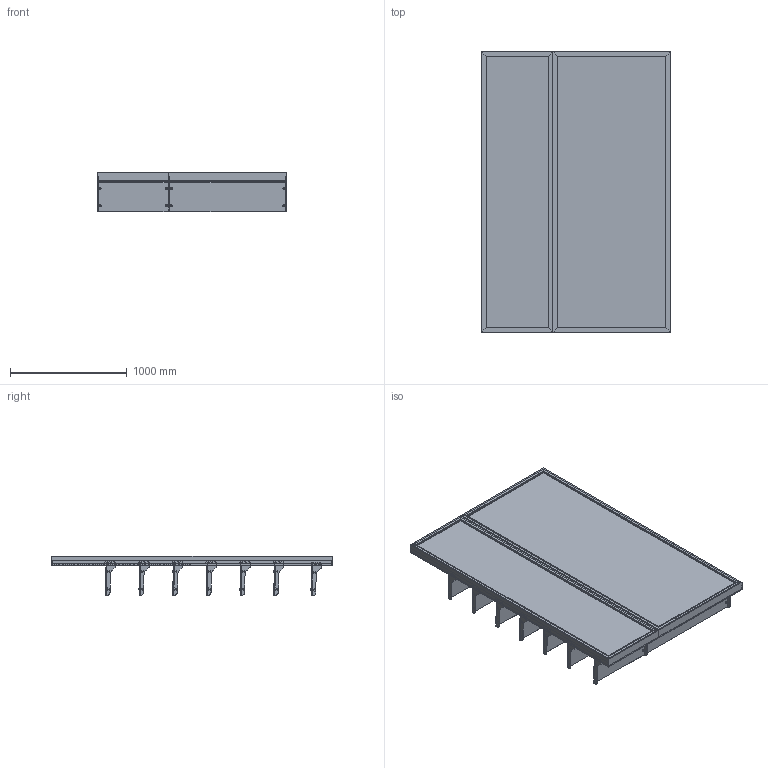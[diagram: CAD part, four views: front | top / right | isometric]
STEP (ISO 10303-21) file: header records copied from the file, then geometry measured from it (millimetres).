
FILE_DESCRIPTION (( 'STEP AP203' ), '1' );
FILE_NAME ('Hybrid Clinic Retail Merchandising Wall - Glass Shelving.STEP', '2026-03-30T13:30:31', ( '' ), ( '' ), 'SwSTEP 2.0', 'SolidWorks 2025', '' );
FILE_SCHEMA (( 'CONFIG_CONTROL_DESIGN' ));
Length unit declared in the file: millimetre
Products named in the file (17): 0001-31-SA28 - 610W Glass Shelf.STEP; 0001-31-SA31 - 1005W Glass Shelf.STEP; 0001-31-SA29.STEP; 0001-31-132.STEP; Narrow Illuminated Beauty Merchandising Display - Glass Shelving_a; 0001-31-115.STEP; 0001-31-GA01 - 610W Slotted Upright; 0001-31-123.STEP; 0001-31-SA28 - 610W Glass Shelf_Assem5; 0001-31-GA10 - 1005W Slotted upbright; Hybrid Clinic Retail Merchandising Wall - Glass Shelving; 0001-31-114.STEP; Wide Illuminated Salon Retail Display - Glass Shelving_Assem1; 0001-31-SA30.STEP; 0001-31-124.STEP; 0000-31-113.STEP; 0001-31-SA31 - 1005W Glass Shelf_Assem5
Assembly tree (54 placements, depth 6):
  Hybrid Clinic Retail Merchandising Wall - Glass Shelving
    Wide Illuminated Salon Retail Display - Glass Shelving_Assem1
      0001-31-GA10 - 1005W Slotted upbright
      0001-31-SA31 - 1005W Glass Shelf_Assem5  x5
        0001-31-SA31 - 1005W Glass Shelf.STEP
          0001-31-SA29.STEP
            0000-31-113.STEP
            0001-31-114.STEP  x2
          0001-31-SA30.STEP
            0000-31-113.STEP
            0001-31-114.STEP  x2
          0001-31-132.STEP
          0001-31-124.STEP  x4
          0001-31-123.STEP  x8
    Narrow Illuminated Beauty Merchandising Display - Glass Shelving_a
      0001-31-GA01 - 610W Slotted Upright
      0001-31-SA28 - 610W Glass Shelf_Assem5  x7
        0001-31-SA28 - 610W Glass Shelf.STEP
          0001-31-SA29.STEP
            0000-31-113.STEP
            0001-31-114.STEP  x2
          0001-31-SA30.STEP
            0000-31-113.STEP
            0001-31-114.STEP  x2
          0001-31-115.STEP
          0001-31-123.STEP  x8
          0001-31-124.STEP  x4
Bounding box: 1615.49 x 2400 x 340.44 mm (x, y, z)
Volume: 33632887.4 mm3; surface area: 25398518.6 mm2
Topology: 240 solids, 240 shells, 4774 faces, 12396 edges, 7976 vertices
Faces by surface type: plane 3166, cylinder 1416, cone 192
Entity records: 46060 total; most frequent: CARTESIAN_POINT 8395, ORIENTED_EDGE 7938, DIRECTION 6315, EDGE_CURVE 3969, VECTOR 3687, LINE 3687, VERTEX_POINT 2626, EDGE_LOOP 1423
